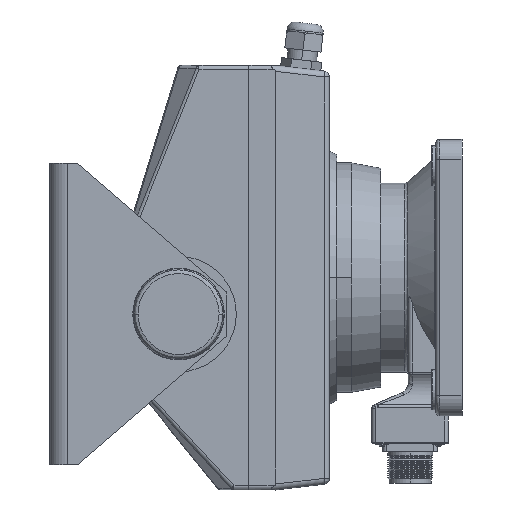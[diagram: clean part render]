
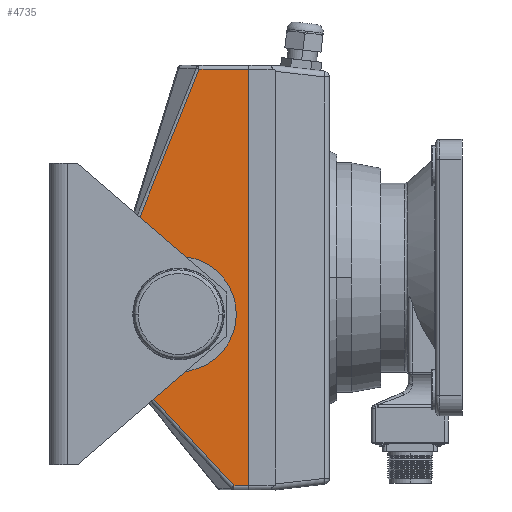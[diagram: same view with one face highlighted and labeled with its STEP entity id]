
A CAD part, left-side view. The second image highlights one B-rep face of the part: STEP entity #4735.
In plain terms, the highlighted planar face has unit normal (-1, 0, 0) as drawn and (0, -1, 0) by its records, which use the part's own axes.
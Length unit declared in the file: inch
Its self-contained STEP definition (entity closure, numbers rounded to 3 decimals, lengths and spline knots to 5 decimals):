
#61 = EDGE_CURVE ( 'NONE', #14983, #1710, #11922, .T. ) ;
#647 = DIRECTION ( 'NONE',  ( 0.956, 0., -0.293 ) ) ;
#1031 = EDGE_CURVE ( 'NONE', #7957, #14983, #11488, .T. ) ;
#1076 = VERTEX_POINT ( 'NONE', #17205 ) ;
#1455 = CARTESIAN_POINT ( 'NONE',  ( -0.90625, -3.53125, 1.75 ) ) ;
#1511 = LINE ( 'NONE', #20666, #21625 ) ;
#1710 = VERTEX_POINT ( 'NONE', #11502 ) ;
#1788 = EDGE_CURVE ( 'NONE', #11504, #1076, #25449, .T. ) ;
#2757 = EDGE_LOOP ( 'NONE', ( #11130, #23243 ) ) ;
#2886 = EDGE_CURVE ( 'NONE', #4654, #17395, #21751, .T. ) ;
#2953 = EDGE_CURVE ( 'NONE', #20065, #23694, #1511, .T. ) ;
#3037 = DIRECTION ( 'NONE',  ( 0., -1., 0. ) ) ;
#4191 = EDGE_LOOP ( 'NONE', ( #19042, #4472, #5091, #7305, #20807, #19524, #9064, #15542 ) ) ;
#4323 = VECTOR ( 'NONE', #25676, 39.37008 ) ;
#4395 = EDGE_CURVE ( 'NONE', #17395, #4654, #23440, .T. ) ;
#4472 = ORIENTED_EDGE ( 'NONE', *, *, #19262, .F. ) ;
#4565 = CARTESIAN_POINT ( 'NONE',  ( 0., -3.53125, 0. ) ) ;
#4627 = DIRECTION ( 'NONE',  ( 0., 0., 1. ) ) ;
#4654 = VERTEX_POINT ( 'NONE', #5317 ) ;
#4735 = ADVANCED_FACE ( 'NONE', ( #9415, #10700 ), #5540, .F. ) ;
#5091 = ORIENTED_EDGE ( 'NONE', *, *, #20173, .F. ) ;
#5317 = CARTESIAN_POINT ( 'NONE',  ( -0.90625, -3.53125, 0.3125 ) ) ;
#5404 = DIRECTION ( 'NONE',  ( 0., 1., 0. ) ) ;
#5540 = PLANE ( 'NONE',  #17873 ) ;
#6491 = CARTESIAN_POINT ( 'NONE',  ( -0.0462, -3.53125, 3.275 ) ) ;
#6721 = CARTESIAN_POINT ( 'NONE',  ( -0.90625, -3.53125, 3.1875 ) ) ;
#6906 = EDGE_CURVE ( 'NONE', #23694, #7957, #22398, .T. ) ;
#7072 = DIRECTION ( 'NONE',  ( 0.928, 0., -0.371 ) ) ;
#7222 = VECTOR ( 'NONE', #17240, 39.37008 ) ;
#7305 = ORIENTED_EDGE ( 'NONE', *, *, #61, .F. ) ;
#7957 = VERTEX_POINT ( 'NONE', #20921 ) ;
#8187 = CARTESIAN_POINT ( 'NONE',  ( -5.18125, -3.53125, 0. ) ) ;
#8271 = CARTESIAN_POINT ( 'NONE',  ( 0.58079, -3.53125, 3.08321 ) ) ;
#8904 = CARTESIAN_POINT ( 'NONE',  ( 5.18125, -3.53125, 0. ) ) ;
#9064 = ORIENTED_EDGE ( 'NONE', *, *, #2953, .F. ) ;
#9415 = FACE_OUTER_BOUND ( 'NONE', #4191, .T. ) ;
#9539 = DIRECTION ( 'NONE',  ( 0., 0., 1. ) ) ;
#9847 = CARTESIAN_POINT ( 'NONE',  ( 5.18125, -3.53125, 1.24303 ) ) ;
#10241 = VECTOR ( 'NONE', #25216, 39.37008 ) ;
#10700 = FACE_BOUND ( 'NONE', #2757, .T. ) ;
#11128 = DIRECTION ( 'NONE',  ( 0., 0., 1. ) ) ;
#11130 = ORIENTED_EDGE ( 'NONE', *, *, #4395, .F. ) ;
#11154 = AXIS2_PLACEMENT_3D ( 'NONE', #22586, #22606, #11128 ) ;
#11488 = LINE ( 'NONE', #16131, #12235 ) ;
#11502 = CARTESIAN_POINT ( 'NONE',  ( -0.0462, -3.53125, 3.275 ) ) ;
#11504 = VERTEX_POINT ( 'NONE', #9847 ) ;
#11725 = CARTESIAN_POINT ( 'NONE',  ( -5.28125, -3.53125, 0. ) ) ;
#11922 = LINE ( 'NONE', #25150, #7222 ) ;
#12235 = VECTOR ( 'NONE', #16005, 39.37008 ) ;
#13189 = VECTOR ( 'NONE', #647, 39.37008 ) ;
#13630 = VECTOR ( 'NONE', #16456, 39.37008 ) ;
#13665 = VECTOR ( 'NONE', #7072, 39.37008 ) ;
#13731 = LINE ( 'NONE', #11725, #4323 ) ;
#13830 = LINE ( 'NONE', #6491, #13189 ) ;
#14797 = CARTESIAN_POINT ( 'NONE',  ( -5.18125, -3.53125, 0.37232 ) ) ;
#14983 = VERTEX_POINT ( 'NONE', #19120 ) ;
#15440 = DIRECTION ( 'NONE',  ( 0., 0., 1. ) ) ;
#15508 = LINE ( 'NONE', #19029, #13665 ) ;
#15542 = ORIENTED_EDGE ( 'NONE', *, *, #23150, .F. ) ;
#16005 = DIRECTION ( 'NONE',  ( 0.778, 0., 0.628 ) ) ;
#16131 = CARTESIAN_POINT ( 'NONE',  ( -2.3221, -3.53125, 3.01154 ) ) ;
#16456 = DIRECTION ( 'NONE',  ( 0., 0., -1. ) ) ;
#17205 = CARTESIAN_POINT ( 'NONE',  ( 5.18125, -3.53125, 0. ) ) ;
#17240 = DIRECTION ( 'NONE',  ( 1., 0., 0. ) ) ;
#17395 = VERTEX_POINT ( 'NONE', #6721 ) ;
#17873 = AXIS2_PLACEMENT_3D ( 'NONE', #4565, #5404, #4627 ) ;
#19029 = CARTESIAN_POINT ( 'NONE',  ( 0.58079, -3.53125, 3.08321 ) ) ;
#19042 = ORIENTED_EDGE ( 'NONE', *, *, #1788, .F. ) ;
#19120 = CARTESIAN_POINT ( 'NONE',  ( -1.99591, -3.53125, 3.275 ) ) ;
#19262 = EDGE_CURVE ( 'NONE', #21535, #11504, #15508, .T. ) ;
#19524 = ORIENTED_EDGE ( 'NONE', *, *, #6906, .F. ) ;
#20065 = VERTEX_POINT ( 'NONE', #8187 ) ;
#20153 = CARTESIAN_POINT ( 'NONE',  ( -5.18125, -3.53125, 0.37232 ) ) ;
#20173 = EDGE_CURVE ( 'NONE', #1710, #21535, #13830, .T. ) ;
#20666 = CARTESIAN_POINT ( 'NONE',  ( -5.18125, -3.53125, 0. ) ) ;
#20807 = ORIENTED_EDGE ( 'NONE', *, *, #1031, .F. ) ;
#20921 = CARTESIAN_POINT ( 'NONE',  ( -2.3221, -3.53125, 3.01154 ) ) ;
#21535 = VERTEX_POINT ( 'NONE', #8271 ) ;
#21625 = VECTOR ( 'NONE', #9539, 39.37008 ) ;
#21751 = CIRCLE ( 'NONE', #11154, 1.4375 ) ;
#22398 = LINE ( 'NONE', #14797, #10241 ) ;
#22586 = CARTESIAN_POINT ( 'NONE',  ( -0.90625, -3.53125, 1.75 ) ) ;
#22606 = DIRECTION ( 'NONE',  ( 0., -1., 0. ) ) ;
#23150 = EDGE_CURVE ( 'NONE', #1076, #20065, #13731, .T. ) ;
#23243 = ORIENTED_EDGE ( 'NONE', *, *, #2886, .F. ) ;
#23440 = CIRCLE ( 'NONE', #24218, 1.4375 ) ;
#23694 = VERTEX_POINT ( 'NONE', #20153 ) ;
#24218 = AXIS2_PLACEMENT_3D ( 'NONE', #1455, #3037, #15440 ) ;
#25150 = CARTESIAN_POINT ( 'NONE',  ( 0., -3.53125, 3.275 ) ) ;
#25216 = DIRECTION ( 'NONE',  ( 0.735, 0., 0.678 ) ) ;
#25449 = LINE ( 'NONE', #8904, #13630 ) ;
#25676 = DIRECTION ( 'NONE',  ( -1., 0., 0. ) ) ;
